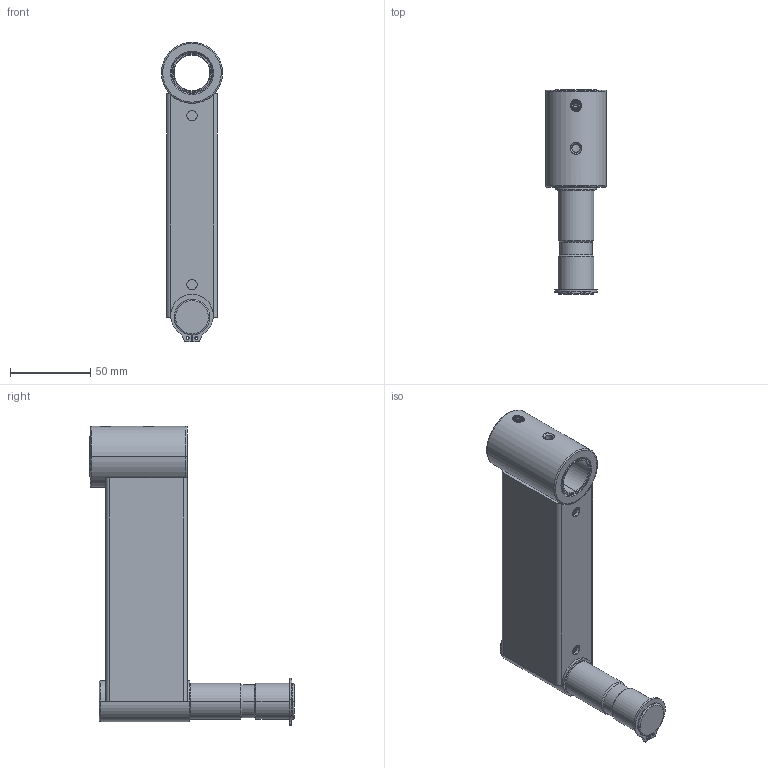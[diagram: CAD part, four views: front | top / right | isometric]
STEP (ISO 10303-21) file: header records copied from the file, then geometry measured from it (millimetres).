
FILE_DESCRIPTION (( 'STEP AP203' ), '1' );
FILE_NAME ('70-1006-00 REV 3, 6in RIGID SECTION, 70 SERIES.STEP', '2017-11-17T18:45:36', ( '' ), ( '' ), 'SwSTEP 2.0', 'SolidWorks 2012', '' );
FILE_SCHEMA (( 'CONFIG_CONTROL_DESIGN' ));
Length unit declared in the file: inch
Products named in the file (9): 71-1006-00 REV 3, HOUSING, 6in RIGID; 016-008-00, OILITE PLUS BEARING, 0.876 id x 1.002 od x 1.25 lg; 007-036-00, SHSS, 1''4-28, .25L_007-036-00; 016-007-00, OILITE PLUS BEARING, 0.876 id x 1.002 od x 0.75 lg; 70-1006-0X REV 1, 6in RIGID WELDMENT; 71-0022-00 REV 1, PIN, RIGID SECTION_Phantom Black; 71-2113-00 REV 1, HOUSING, BEARING, TALL, 1.5OD_MACHINE; 010-012-00, RETAINING RING, EXTERNAL, .875in SHAFT; 70-1006-00 REV 3, 6in RIGID SECTION, 70 SERIES
Assembly tree (8 placements, depth 3):
  70-1006-00 REV 3, 6in RIGID SECTION, 70 SERIES
    70-1006-0X REV 1, 6in RIGID WELDMENT
      71-1006-00 REV 3, HOUSING, 6in RIGID
      71-0022-00 REV 1, PIN, RIGID SECTION_Phantom Black
      71-2113-00 REV 1, HOUSING, BEARING, TALL, 1.5OD_MACHINE
    016-007-00, OILITE PLUS BEARING, 0.876 id x 1.002 od x 0.75 lg
    016-008-00, OILITE PLUS BEARING, 0.876 id x 1.002 od x 1.25 lg
    007-036-00, SHSS, 1''4-28, .25L_007-036-00
    010-012-00, RETAINING RING, EXTERNAL, .875in SHAFT
Bounding box: 38.1 x 127.38 x 186.7 mm (x, y, z)
Volume: 141176.1 mm3; surface area: 74375.9 mm2
Topology: 7 solids, 7 shells, 174 faces, 411 edges, 250 vertices
Faces by surface type: cylinder 75, plane 42, cone 28, torus 26, bspline 3
Entity records: 7463 total; most frequent: CARTESIAN_POINT 2459, DIRECTION 913, ORIENTED_EDGE 814, EDGE_CURVE 407, AXIS2_PLACEMENT_3D 380, VERTEX_POINT 250, CIRCLE 197, EDGE_LOOP 197
